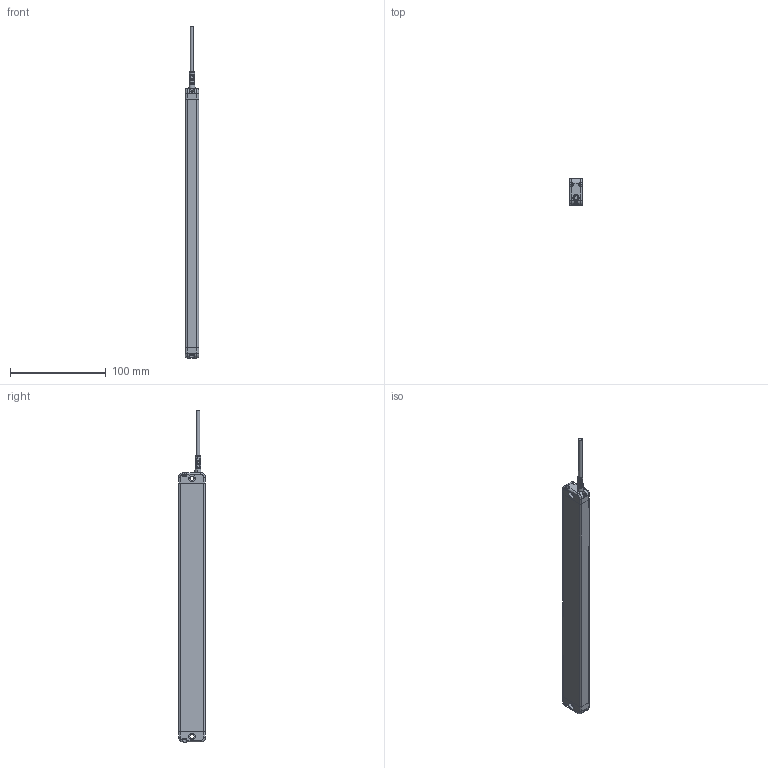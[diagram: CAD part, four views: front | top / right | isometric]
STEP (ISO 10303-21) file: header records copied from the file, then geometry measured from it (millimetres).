
FILE_DESCRIPTION (( 'STEP AP214' ), '1' );
FILE_NAME ('PG3-10RT-24.STEP', '2025-08-19T06:43:35', ( 'Windows User' ), ( 'P R C' ), 'SwSTEP 2.0', 'SolidWorks 2023', '' );
FILE_SCHEMA (( 'AUTOMOTIVE_DESIGN' ));
Length unit declared in the file: millimetre
Products named in the file (3): PG3-10RT-24; PG3后端盖; PG3-10-30
Assembly tree (2 placements, depth 2):
  PG3-10RT-24
    PG3-10-30
    PG3后端盖
Bounding box: 14 x 28 x 347.51 mm (x, y, z)
Volume: 107229.4 mm3; surface area: 27284.3 mm2
Topology: 6 solids, 6 shells, 334 faces, 882 edges, 578 vertices
Faces by surface type: plane 183, cylinder 110, bspline 22, cone 19
Entity records: 11747 total; most frequent: CARTESIAN_POINT 3752, ORIENTED_EDGE 1764, DIRECTION 1504, EDGE_CURVE 882, VERTEX_POINT 578, AXIS2_PLACEMENT_3D 546, LINE 412, VECTOR 412
